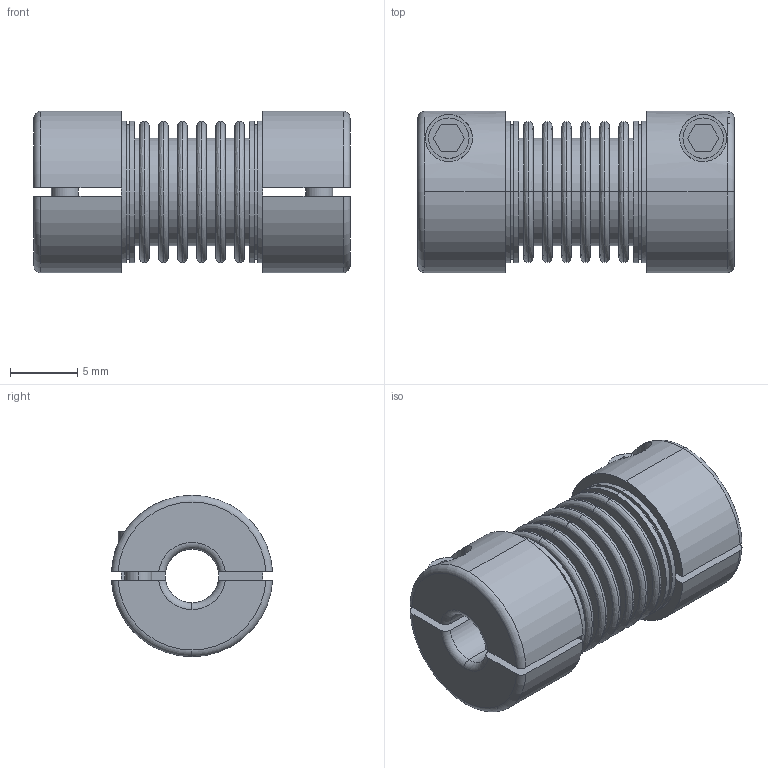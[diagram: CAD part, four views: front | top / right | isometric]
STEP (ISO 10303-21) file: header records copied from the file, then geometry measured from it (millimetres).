
FILE_DESCRIPTION (( 'STEP AP203' ), '1' );
FILE_NAME ('GMT-FACB12.STEP', '2008-04-17T01:21:05', ( 'user' ), ( '' ), 'SwSTEP 2.0', 'SolidWorks 2007', '' );
FILE_SCHEMA (( 'CONFIG_CONTROL_DESIGN' ));
Length unit declared in the file: millimetre
Products named in the file (1): GMT-FACB12
Bounding box: 23.5 x 11.98 x 12 mm (x, y, z)
Volume: 1731 mm3; surface area: 2136.1 mm2
Topology: 1 solids, 1 shells, 157 faces, 359 edges, 231 vertices
Faces by surface type: plane 61, cylinder 60, bspline 24, torus 12
Entity records: 5035 total; most frequent: CARTESIAN_POINT 1448, DIRECTION 752, ORIENTED_EDGE 718, EDGE_CURVE 359, AXIS2_PLACEMENT_3D 311, VERTEX_POINT 231, EDGE_LOOP 190, CIRCLE 177
